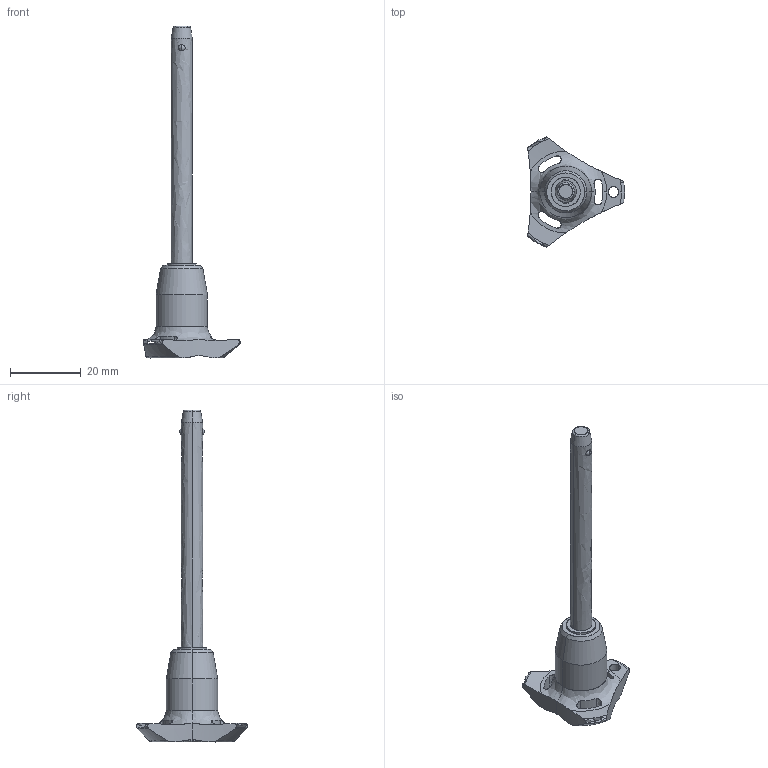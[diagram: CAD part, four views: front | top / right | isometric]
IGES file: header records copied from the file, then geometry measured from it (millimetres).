
Start section: SolidWorks IGES file using analytic representation for surfaces
Global section: file name: C:\Users\ianosborn\Desktop\QR1704_v2\QR1704_v2_20251111_IGES\QR1704.M06-060-S.igs; native system: SolidWorks 2019; preprocessor: SolidWorks 2019; author: IanOsborn; date: 251112.090811; units: millimetre
Bounding box: 27.4 x 31.31 x 93.7 mm (x, y, z)
Surface area: 3683.9 mm2 (no closed solid volume)
Topology: 0 solids, 0 shells, 66 faces, 1251 edges, 1232 vertices
Faces by surface type: revolution 50, bspline 16
